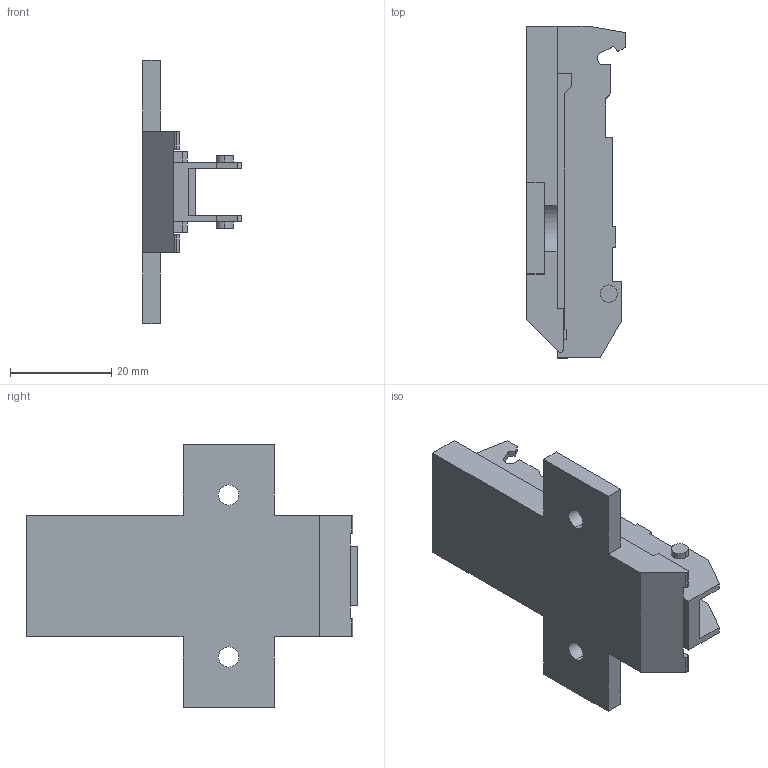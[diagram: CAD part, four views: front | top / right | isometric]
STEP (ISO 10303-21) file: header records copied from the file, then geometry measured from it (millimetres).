
FILE_DESCRIPTION (( 'STEP AP214' ), '1' );
FILE_NAME ('1D Kreuzmontageplatte_37_32_H09.STEP', '2011-08-18T14:00:23', ( '' ), ( '' ), 'SwSTEP 2.0', 'SolidWorks 2011', '' );
FILE_SCHEMA (( 'AUTOMOTIVE_DESIGN' ));
Length unit declared in the file: millimetre
Products named in the file (1): 1D Kreuzmontageplatte_37_32_H09
Bounding box: 19.5 x 65.55 x 52 mm (x, y, z)
Volume: 14624.8 mm3; surface area: 8211.7 mm2
Topology: 1 solids, 1 shells, 104 faces, 298 edges, 198 vertices
Faces by surface type: plane 88, cylinder 16
Entity records: 3400 total; most frequent: CARTESIAN_POINT 601, ORIENTED_EDGE 596, DIRECTION 540, EDGE_CURVE 298, VECTOR 266, LINE 266, VERTEX_POINT 198, AXIS2_PLACEMENT_3D 137
